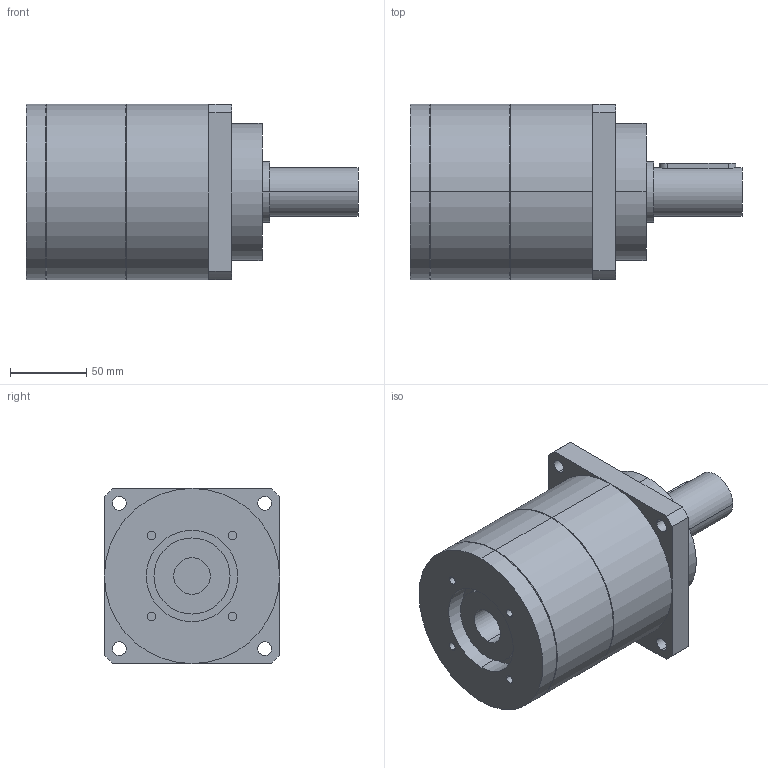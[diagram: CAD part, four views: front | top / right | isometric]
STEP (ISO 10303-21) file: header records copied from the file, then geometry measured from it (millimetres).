
FILE_DESCRIPTION(('CoCreate Modeling STEP Export'),'2;1');
FILE_NAME('GPT120_ig-3-4-5-7-10_32_B5A_24_P02.stp','2015-02-04T16:59:43',(''),(''),'CoCreate Modeling STEP processor for AP214 (Solid Model)','CoCreate Modeling 16.00C 25-Feb-2009 (C) Parametric Technology GmbH','');
FILE_SCHEMA(('AUTOMOTIVE_DESIGN { 1 0 10303 214 1 1 1 1 }'));
Length unit declared in the file: millimetre
Products named in the file (2): GPT120_ig-3-4-5-7-10_32_B5A_24_P02
Assembly tree (1 placements, depth 2):
  GPT120_ig-3-4-5-7-10_32_B5A_24_P02
    GPT120_ig-3-4-5-7-10_32_B5A_24_P02
Bounding box: 218 x 115 x 115 mm (x, y, z)
Volume: 1569430.8 mm3; surface area: 100178.2 mm2
Topology: 1 solids, 1 shells, 72 faces, 180 edges, 123 vertices
Faces by surface type: cylinder 42, plane 26, cone 4
Entity records: 2290 total; most frequent: CARTESIAN_POINT 710, ORIENTED_EDGE 360, DIRECTION 270, EDGE_CURVE 180, VERTEX_POINT 123, AXIS2_PLACEMENT_3D 101, EDGE_LOOP 93, FACE_OUTER_BOUND 72
